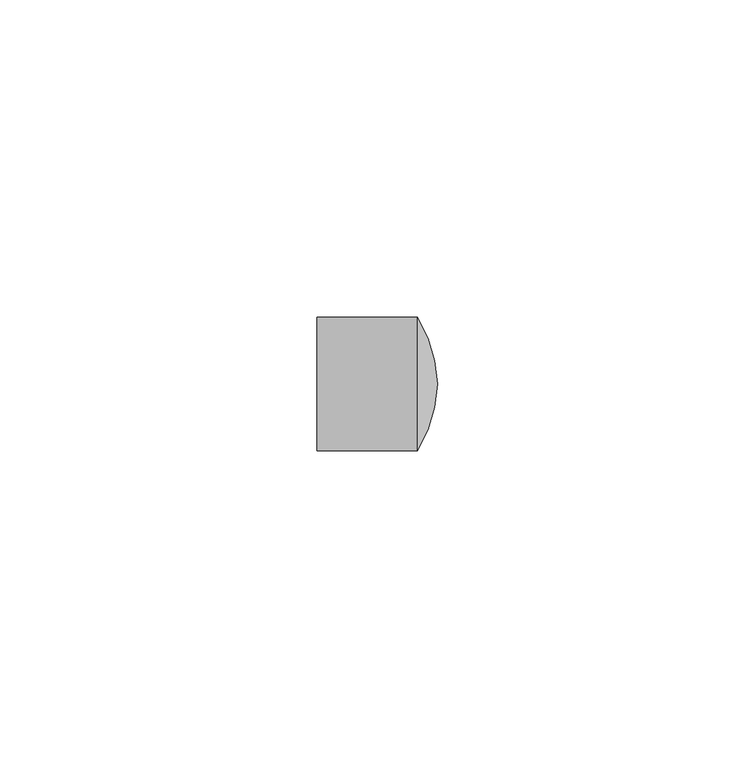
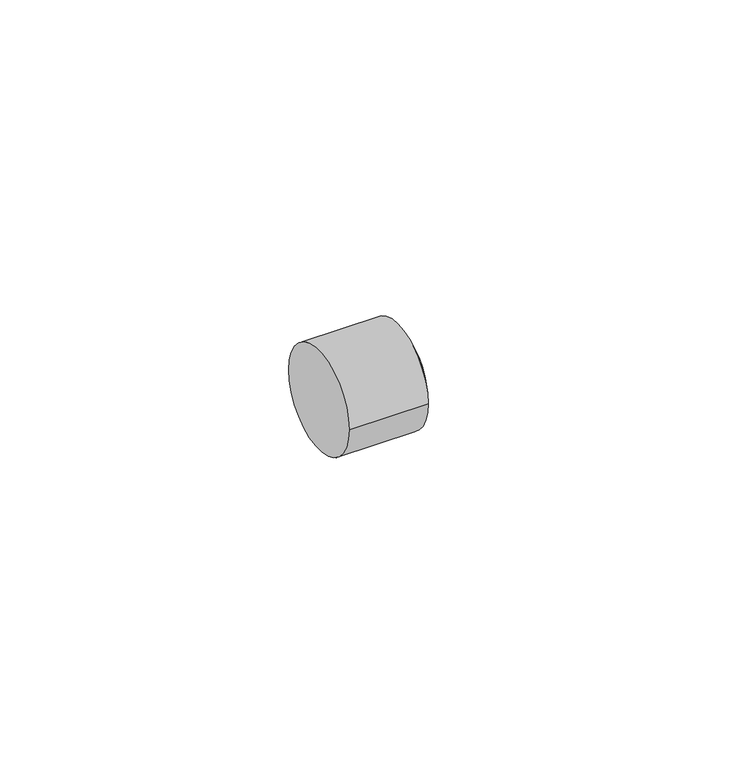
"""IFC4 building model written with IfcOpenShell, lengths in millimetres: pipe fitting geometry, 01051012 : Tampão F."""

from ifc_helpers import new_model, si_unit, point, frame, origin, place, context, project, spatial, circle_curve, ellipse_curve, trimmed, source, transform, mapped, element, save
from ifc_brep_helpers import plane_surface, cylinder_surface, revolved_surface, advanced_brep


def pipe_fitting_0d4d816a(model_context):
    return source(origin(), model_context, "Body", "AdvancedBrep", [
        advanced_brep(
        [(15.8333333, 10.5, 0.0), (19.0, 0.0, 0.0), (15.8333333, -10.5, 0.0), (0.0, -10.5, 0.0), (0.0, 10.5, 0.0)],
        [
            (0, 1, circle_curve(frame((-4.4450737, -1.3432233, 0.0), z_axis=(0.0, 0.0, -1.0), x_axis=(1.0, 0.0, 0.0)), 23.4835204)),
            (1, 2, circle_curve(frame((-4.4450737, 1.3432233, 0.0), z_axis=(0.0, 0.0, -1.0), x_axis=(1.0, 0.0, 0.0)), 23.4835204)),
            (2, 0, circle_curve(frame((15.8333333, 0.0, 0.0), z_axis=(1.0, 0.0, 0.0), x_axis=(0.0, 1.0, 0.0)), 10.5)),
            (0, 2, circle_curve(frame((15.8333333, 0.0, 0.0), z_axis=(1.0, 0.0, 0.0), x_axis=(0.0, 1.0, 0.0)), 10.5)),
            (3, 4, circle_curve(frame((0.0, 0.0, 0.0), z_axis=(-1.0, 0.0, 0.0), x_axis=(0.0, 1.0, 0.0)), 10.5)),
            (4, 3, circle_curve(frame((0.0, 0.0, 0.0), z_axis=(-1.0, 0.0, 0.0), x_axis=(0.0, 1.0, 0.0)), 10.5)),
            (3, 2),
            (0, 4),
        ],
        [
            revolved_surface(trimmed(ellipse_curve(frame((-4.4450737, -1.3432233, 0.0), z_axis=(0.0, 0.0, 1.0), x_axis=(1.0, 0.0, 0.0)), 23.4835204, 23.4835204), [point((19.0, 0.0, 0.0))], [point((15.8333333, 10.5, 0.0))], True, "CARTESIAN"), (15.8333333, 0.0, 0.0), (-1.0, 0.0, 0.0)),
            plane_surface(frame((0.0, 0.0, 0.0), z_axis=(-1.0, 0.0, 0.0), x_axis=(0.0, 0.0, 1.0))),
            cylinder_surface(frame((0.0, 0.0, 0.0), z_axis=(-1.0, 0.0, 0.0), x_axis=(0.0, 1.0, 0.0)), 10.5),
        ],
        [
            (0, [[1, 2, 3]]),
            (0, [[-1, 4, -2]]),
            (1, [[5, 6]]),
            (2, [[-5, 7, -4, 8]]),
            (2, [[-6, -8, -3, -7]]),
        ],
    ),
    ])


if __name__ == "__main__":
    model = new_model("IFC4")
    model_context = context("Model", 3, world=origin())
    ifc_project = project(units=[si_unit("LENGTHUNIT", "METRE", prefix="MILLI")], contexts=[model_context])
    site = spatial("IfcSite", under=ifc_project)
    building = spatial("IfcBuilding", under=site)
    placement = place(None, origin())
    pipe_fitting_shape = pipe_fitting_0d4d816a(model_context)
    element("IfcPipeFitting", 1, ObjectType="01051012 : Tampão F", at=placement, inside=building, context=model_context, shape_type="MappedRepresentation", body=[
        mapped(pipe_fitting_shape, transform((0.0, 0.0, 0.0), x_axis=(1.0, 0.0, 0.0), y_axis=(0.0, 1.0, 0.0), z_axis=(0.0, 0.0, 1.0))),
    ])
    save(model, "model.ifc")
